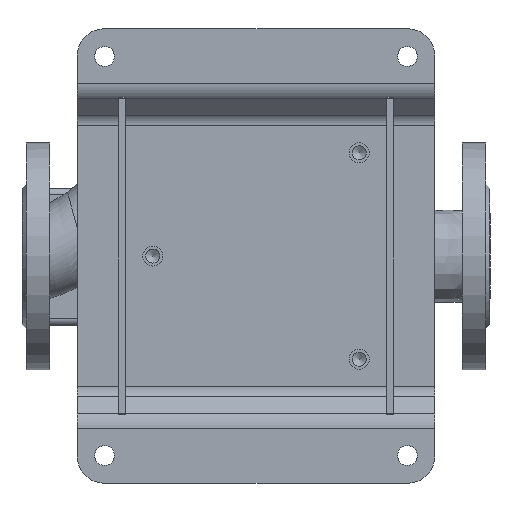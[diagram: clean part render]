
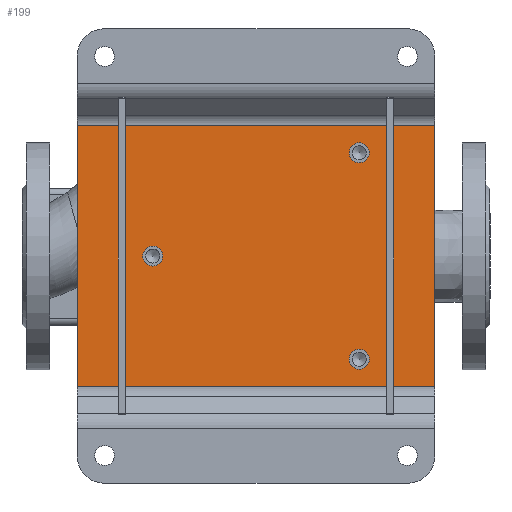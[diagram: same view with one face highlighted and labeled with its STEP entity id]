
A CAD part, top view. The second image highlights one B-rep face of the part: STEP entity #199.
In plain terms, the highlighted planar face has unit normal (0, 0, 1) as drawn and (0, -1, 0) by its records, which use the part's own axes.
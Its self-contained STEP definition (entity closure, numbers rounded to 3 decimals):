
#199 = ADVANCED_FACE ( 'NONE', ( #6520, #318, #23459, #7142 ), #33536, .T. ) ;
#318 = FACE_BOUND ( 'NONE', #33048, .T. ) ;
#720 = DIRECTION ( 'NONE',  ( 0., -1., 0. ) ) ;
#728 = CARTESIAN_POINT ( 'NONE',  ( 95., -5., 130. ) ) ;
#945 = EDGE_CURVE ( 'NONE', #20751, #36230, #38772, .T. ) ;
#1295 = VECTOR ( 'NONE', #9353, 1000. ) ;
#2061 = VERTEX_POINT ( 'NONE', #38098 ) ;
#3703 = VERTEX_POINT ( 'NONE', #25081 ) ;
#3959 = VERTEX_POINT ( 'NONE', #6975 ) ;
#4555 = LINE ( 'NONE', #728, #30271 ) ;
#4664 = AXIS2_PLACEMENT_3D ( 'NONE', #16815, #720, #26901 ) ;
#5044 = LINE ( 'NONE', #24989, #30872 ) ;
#5937 = EDGE_CURVE ( 'NONE', #17675, #20751, #5044, .T. ) ;
#6520 = FACE_BOUND ( 'NONE', #23146, .T. ) ;
#6975 = CARTESIAN_POINT ( 'NONE',  ( -75., -5., 67.75 ) ) ;
#7142 = FACE_OUTER_BOUND ( 'NONE', #29041, .T. ) ;
#7553 = DIRECTION ( 'NONE',  ( 0., 0., -1. ) ) ;
#7593 = ORIENTED_EDGE ( 'NONE', *, *, #9266, .F. ) ;
#8218 = DIRECTION ( 'NONE',  ( 0., -1., 0. ) ) ;
#8835 = DIRECTION ( 'NONE',  ( 0., 0., -1. ) ) ;
#9156 = CARTESIAN_POINT ( 'NONE',  ( -95., -5., 130. ) ) ;
#9266 = EDGE_CURVE ( 'NONE', #2061, #2061, #24861, .T. ) ;
#9353 = DIRECTION ( 'NONE',  ( 1., 0., 0. ) ) ;
#11634 = CIRCLE ( 'NONE', #41803, 7.25 ) ;
#12230 = EDGE_CURVE ( 'NONE', #3959, #3959, #14365, .T. ) ;
#12381 = VECTOR ( 'NONE', #12408, 1000. ) ;
#12408 = DIRECTION ( 'NONE',  ( -1., 0., 0. ) ) ;
#13256 = AXIS2_PLACEMENT_3D ( 'NONE', #37622, #8218, #19590 ) ;
#14365 = CIRCLE ( 'NONE', #40394, 7.25 ) ;
#15616 = CARTESIAN_POINT ( 'NONE',  ( -95., -5., -130. ) ) ;
#16815 = CARTESIAN_POINT ( 'NONE',  ( 0., -5., 0. ) ) ;
#17675 = VERTEX_POINT ( 'NONE', #29136 ) ;
#18360 = EDGE_CURVE ( 'NONE', #36230, #3703, #4555, .T. ) ;
#18413 = ORIENTED_EDGE ( 'NONE', *, *, #29014, .F. ) ;
#19049 = EDGE_CURVE ( 'NONE', #3703, #17675, #22698, .T. ) ;
#19590 = DIRECTION ( 'NONE',  ( 0., 0., -1. ) ) ;
#20455 = VERTEX_POINT ( 'NONE', #23883 ) ;
#20751 = VERTEX_POINT ( 'NONE', #31243 ) ;
#20924 = DIRECTION ( 'NONE',  ( 0., 0., 1. ) ) ;
#21782 = CARTESIAN_POINT ( 'NONE',  ( -75., -5., 75. ) ) ;
#22475 = ORIENTED_EDGE ( 'NONE', *, *, #12230, .F. ) ;
#22698 = LINE ( 'NONE', #15616, #12381 ) ;
#23146 = EDGE_LOOP ( 'NONE', ( #7593 ) ) ;
#23459 = FACE_BOUND ( 'NONE', #33359, .T. ) ;
#23883 = CARTESIAN_POINT ( 'NONE',  ( 0., -5., -82.25 ) ) ;
#24861 = CIRCLE ( 'NONE', #13256, 7.25 ) ;
#24989 = CARTESIAN_POINT ( 'NONE',  ( -95., -5., 130. ) ) ;
#25081 = CARTESIAN_POINT ( 'NONE',  ( 95., -5., -130. ) ) ;
#25297 = ORIENTED_EDGE ( 'NONE', *, *, #5937, .F. ) ;
#26901 = DIRECTION ( 'NONE',  ( 0., 0., -1. ) ) ;
#28451 = DIRECTION ( 'NONE',  ( 0., -1., 0. ) ) ;
#29014 = EDGE_CURVE ( 'NONE', #20455, #20455, #11634, .T. ) ;
#29041 = EDGE_LOOP ( 'NONE', ( #35303, #35181, #25297, #34412 ) ) ;
#29136 = CARTESIAN_POINT ( 'NONE',  ( -95., -5., -130. ) ) ;
#30271 = VECTOR ( 'NONE', #7553, 1000. ) ;
#30872 = VECTOR ( 'NONE', #20924, 1000. ) ;
#31243 = CARTESIAN_POINT ( 'NONE',  ( -95., -5., 130. ) ) ;
#33048 = EDGE_LOOP ( 'NONE', ( #18413 ) ) ;
#33359 = EDGE_LOOP ( 'NONE', ( #22475 ) ) ;
#33536 = PLANE ( 'NONE',  #4664 ) ;
#34412 = ORIENTED_EDGE ( 'NONE', *, *, #19049, .F. ) ;
#34878 = DIRECTION ( 'NONE',  ( 0., 0., -1. ) ) ;
#35181 = ORIENTED_EDGE ( 'NONE', *, *, #945, .F. ) ;
#35303 = ORIENTED_EDGE ( 'NONE', *, *, #18360, .F. ) ;
#36230 = VERTEX_POINT ( 'NONE', #39976 ) ;
#37622 = CARTESIAN_POINT ( 'NONE',  ( 75., -5., 75. ) ) ;
#38098 = CARTESIAN_POINT ( 'NONE',  ( 75., -5., 67.75 ) ) ;
#38242 = DIRECTION ( 'NONE',  ( 0., -1., 0. ) ) ;
#38772 = LINE ( 'NONE', #9156, #1295 ) ;
#39976 = CARTESIAN_POINT ( 'NONE',  ( 95., -5., 130. ) ) ;
#40394 = AXIS2_PLACEMENT_3D ( 'NONE', #21782, #28451, #34878 ) ;
#41456 = CARTESIAN_POINT ( 'NONE',  ( 0., -5., -75. ) ) ;
#41803 = AXIS2_PLACEMENT_3D ( 'NONE', #41456, #38242, #8835 ) ;
